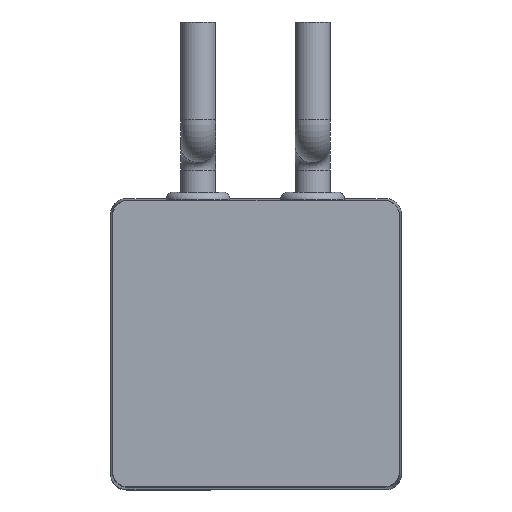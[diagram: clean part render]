
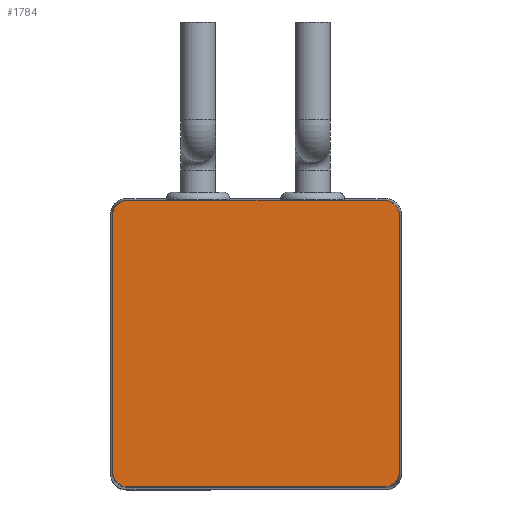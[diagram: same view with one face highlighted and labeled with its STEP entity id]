
A CAD part, top view. The second image highlights one B-rep face of the part: STEP entity #1784.
In plain terms, the highlighted planar face has unit normal (0, 0, 1).
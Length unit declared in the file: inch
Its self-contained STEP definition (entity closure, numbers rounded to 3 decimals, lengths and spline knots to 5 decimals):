
#1308=CARTESIAN_POINT('',(-1.0065,1.125,5.646));
#1309=VERTEX_POINT('',#1308);
#1316=CARTESIAN_POINT('',(1.0065,1.125,5.646));
#1317=VERTEX_POINT('',#1316);
#1318=CARTESIAN_POINT('',(-1.0065,1.125,5.646));
#1319=DIRECTION('',(1.0,0.0,0.0));
#1320=VECTOR('',#1319,2.013);
#1321=LINE('',#1318,#1320);
#1322=EDGE_CURVE('',#1309,#1317,#1321,.T.);
#1509=CARTESIAN_POINT('',(1.125,-1.0065,5.646));
#1510=VERTEX_POINT('',#1509);
#1511=CARTESIAN_POINT('',(1.0065,-1.125,5.646));
#1512=VERTEX_POINT('',#1511);
#1513=CARTESIAN_POINT('',(1.0065,-1.0065,5.646));
#1514=DIRECTION('',(0.0,0.0,-1.));
#1515=DIRECTION('',(0.707,-0.707,0.0));
#1516=AXIS2_PLACEMENT_3D('',#1513,#1514,#1515);
#1517=CIRCLE('',#1516,0.1185);
#1518=EDGE_CURVE('',#1510,#1512,#1517,.T.);
#1609=CARTESIAN_POINT('',(-1.0065,-1.125,5.646));
#1610=VERTEX_POINT('',#1609);
#1611=CARTESIAN_POINT('',(1.0065,-1.125,5.646));
#1612=DIRECTION('',(-1.0,0.0,0.0));
#1613=VECTOR('',#1612,2.013);
#1614=LINE('',#1611,#1613);
#1615=EDGE_CURVE('',#1512,#1610,#1614,.T.);
#1648=CARTESIAN_POINT('',(-1.125,-1.0065,5.646));
#1649=VERTEX_POINT('',#1648);
#1650=CARTESIAN_POINT('',(-1.0065,-1.0065,5.646));
#1651=DIRECTION('',(0.0,0.0,-1.));
#1652=DIRECTION('',(-0.707,-0.707,0.0));
#1653=AXIS2_PLACEMENT_3D('',#1650,#1651,#1652);
#1654=CIRCLE('',#1653,0.1185);
#1655=EDGE_CURVE('',#1610,#1649,#1654,.T.);
#1731=CARTESIAN_POINT('',(-1.125,1.0065,5.646));
#1732=VERTEX_POINT('',#1731);
#1733=CARTESIAN_POINT('',(-1.0065,1.0065,5.646));
#1734=DIRECTION('',(0.0,0.0,-1.));
#1735=DIRECTION('',(-0.707,0.707,0.0));
#1736=AXIS2_PLACEMENT_3D('',#1733,#1734,#1735);
#1737=CIRCLE('',#1736,0.1185);
#1738=EDGE_CURVE('',#1732,#1309,#1737,.T.);
#1751=CARTESIAN_POINT('',(0.0,0.,5.646));
#1752=DIRECTION('',(0.0,0.0,1.0));
#1753=DIRECTION('',(1.0,0.0,0.0));
#1754=AXIS2_PLACEMENT_3D('',#1751,#1752,#1753);
#1755=PLANE('',#1754);
#1756=ORIENTED_EDGE('',*,*,#1518,.F.);
#1757=CARTESIAN_POINT('',(1.125,1.0065,5.646));
#1758=VERTEX_POINT('',#1757);
#1759=CARTESIAN_POINT('',(1.125,1.0065,5.646));
#1760=DIRECTION('',(0.0,-1.0,0.0));
#1761=VECTOR('',#1760,2.013);
#1762=LINE('',#1759,#1761);
#1763=EDGE_CURVE('',#1758,#1510,#1762,.T.);
#1764=ORIENTED_EDGE('',*,*,#1763,.F.);
#1765=CARTESIAN_POINT('',(1.0065,1.0065,5.646));
#1766=DIRECTION('',(0.0,0.0,-1.));
#1767=DIRECTION('',(0.707,0.707,0.0));
#1768=AXIS2_PLACEMENT_3D('',#1765,#1766,#1767);
#1769=CIRCLE('',#1768,0.1185);
#1770=EDGE_CURVE('',#1317,#1758,#1769,.T.);
#1771=ORIENTED_EDGE('',*,*,#1770,.F.);
#1772=ORIENTED_EDGE('',*,*,#1322,.F.);
#1773=ORIENTED_EDGE('',*,*,#1738,.F.);
#1774=CARTESIAN_POINT('',(-1.125,-1.0065,5.646));
#1775=DIRECTION('',(0.0,1.0,0.0));
#1776=VECTOR('',#1775,2.013);
#1777=LINE('',#1774,#1776);
#1778=EDGE_CURVE('',#1649,#1732,#1777,.T.);
#1779=ORIENTED_EDGE('',*,*,#1778,.F.);
#1780=ORIENTED_EDGE('',*,*,#1655,.F.);
#1781=ORIENTED_EDGE('',*,*,#1615,.F.);
#1782=EDGE_LOOP('',(#1756,#1764,#1771,#1772,#1773,#1779,#1780,#1781));
#1783=FACE_OUTER_BOUND('',#1782,.T.);
#1784=ADVANCED_FACE('',(#1783),#1755,.T.);
